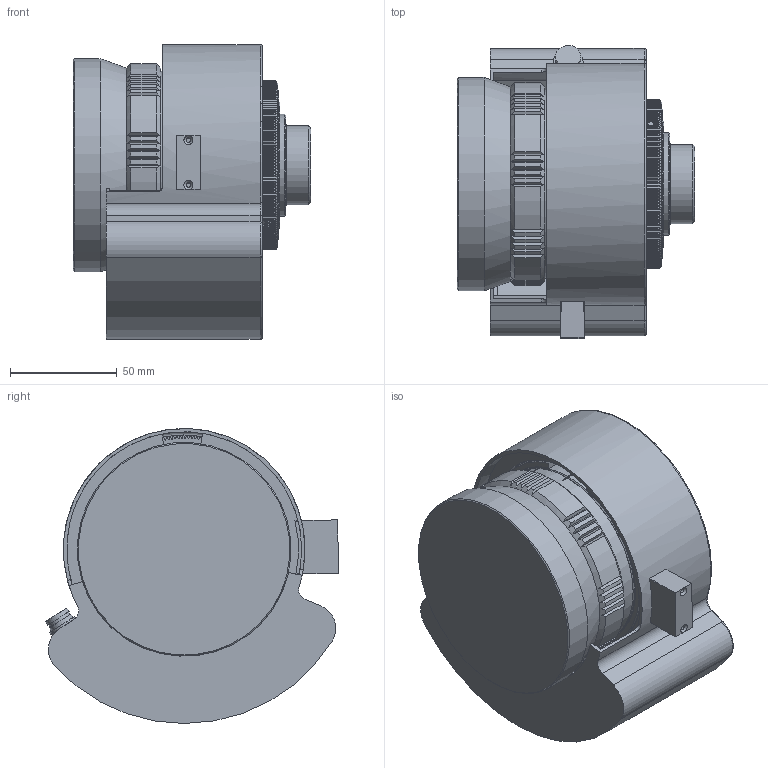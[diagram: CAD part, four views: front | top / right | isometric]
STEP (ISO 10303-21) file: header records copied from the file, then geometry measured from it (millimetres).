
FILE_DESCRIPTION((''),'2;1');
FILE_NAME('C:\Users\dblandino\Desktop\C0811_073_002.stp','2014-04-28T12:02:31',('dblandino'),(''),'Autodesk Inventor 2010','Autodesk Inventor 2010','');
FILE_SCHEMA(('AUTOMOTIVE_DESIGN { 1 0 10303 214 1 1 1 1 }'));
Length unit declared in the file: millimetre
Products named in the file (2): C0811_073_002.iam (Livello di dettaglio sostituto1); C0811_073_002_SUB
Assembly tree (1 placements, depth 2):
  C0811_073_002.iam (Livello di dettaglio sostituto1)
    C0811_073_002_SUB
Bounding box: 111.32 x 137.11 x 138 mm (x, y, z)
Volume: 771195.6 mm3; surface area: 152281.9 mm2
Topology: 1 solids, 1 shells, 2438 faces, 7185 edges, 4771 vertices
Faces by surface type: cylinder 1399, plane 965, bspline 41, cone 24, torus 9
Full cylindrical faces by diameter (mm): 6.32 x1, 8 x2, 8.23 x1, 9.38 x1, 10.26 x1, 11 x1, 11.1 x1, 11.9 x2, 14 x1, 14.31 x1, 22.2 x1, 37 x1, 48 x1, 75 x1, 88 x1, 100 x1
Entity records: 85074 total; most frequent: CARTESIAN_POINT 18375, ORIENTED_EDGE 14220, DIRECTION 13589, EDGE_CURVE 7110, AXIS2_PLACEMENT_3D 5187, VERTEX_POINT 4746, VECTOR 3215, LINE 3215
